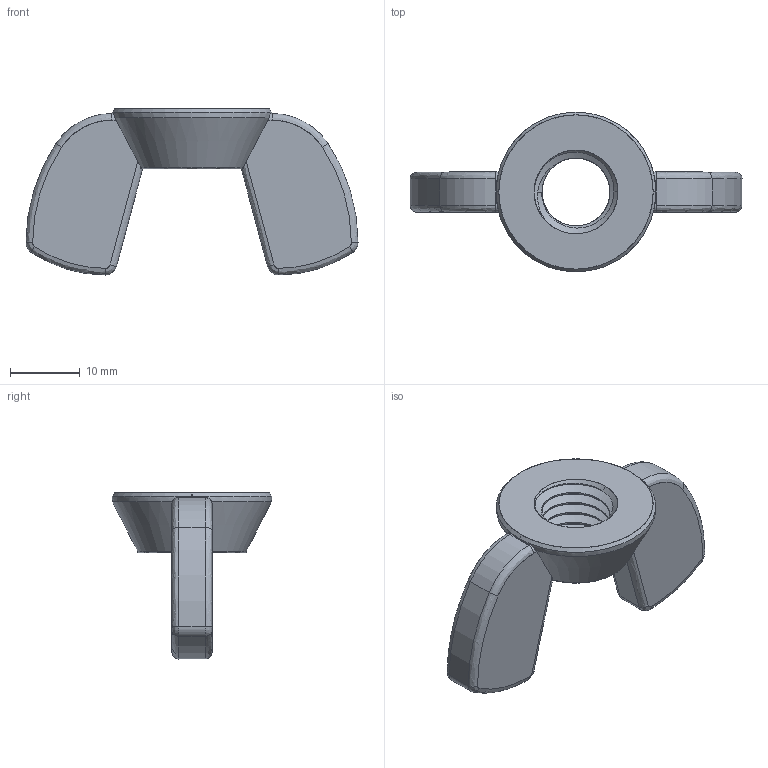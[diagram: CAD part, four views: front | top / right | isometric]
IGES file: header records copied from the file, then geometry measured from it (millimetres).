
Start section: SolidWorks IGES file using analytic representation for surfaces
Global section: file name: C:\Users\Home\Desktop\Wing Nuts Metric\WING NUT M12 x 1.75mm Thread.IGS; native system: SolidWorks 2014; preprocessor: SolidWorks 2014; author: Home; date: 170501.210436; units: millimetre
Bounding box: 47.6 x 22.92 x 23.8 mm (x, y, z)
Surface area: 2974.8 mm2 (no closed solid volume)
Topology: 0 solids, 0 shells, 83 faces, 1273 edges, 1273 vertices
Faces by surface type: revolution 49, bspline 34
